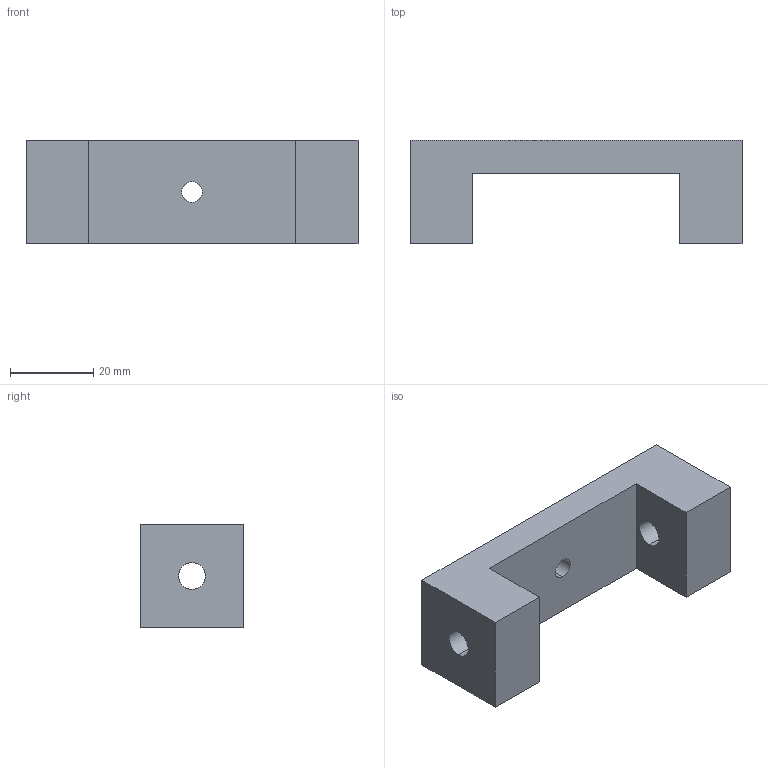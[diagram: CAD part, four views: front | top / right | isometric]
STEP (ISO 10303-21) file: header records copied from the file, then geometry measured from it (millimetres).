
FILE_DESCRIPTION (( 'STEP AP214' ), '1' );
FILE_NAME ('Support roue Fraisage.STEP', '2022-07-14T15:32:53', ( '' ), ( '' ), 'SwSTEP 2.0', 'SolidWorks 2021', '' );
FILE_SCHEMA (( 'AUTOMOTIVE_DESIGN' ));
Length unit declared in the file: millimetre
Products named in the file (1): Support roue Fraisage
Bounding box: 80 x 25 x 25 mm (x, y, z)
Volume: 27597.4 mm3; surface area: 8966.3 mm2
Topology: 1 solids, 1 shells, 16 faces, 42 edges, 28 vertices
Faces by surface type: plane 10, cylinder 6
Entity records: 566 total; most frequent: DIRECTION 88, CARTESIAN_POINT 87, ORIENTED_EDGE 84, EDGE_CURVE 42, VECTOR 30, LINE 30, AXIS2_PLACEMENT_3D 29, VERTEX_POINT 28
